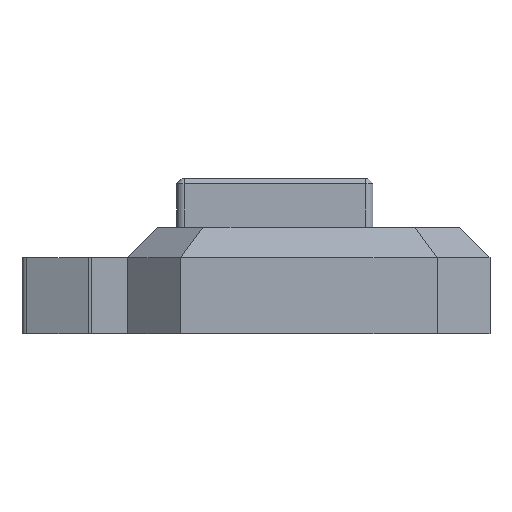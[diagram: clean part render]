
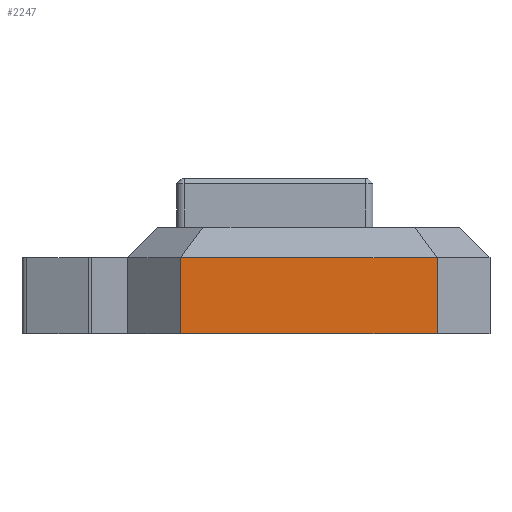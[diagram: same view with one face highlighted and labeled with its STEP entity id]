
A CAD part, left-side view. The second image highlights one B-rep face of the part: STEP entity #2247.
In plain terms, the highlighted planar face has unit normal (-1, 0, 0).
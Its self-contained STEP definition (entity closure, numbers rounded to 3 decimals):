
#44 = PLANE('',#45);
#45 = AXIS2_PLACEMENT_3D('',#46,#47,#48);
#46 = CARTESIAN_POINT('',(0.,0.,2.4));
#47 = DIRECTION('',(0.,0.,1.));
#48 = DIRECTION('',(1.,0.,-0.));
#72 = PLANE('',#73);
#73 = AXIS2_PLACEMENT_3D('',#74,#75,#76);
#74 = CARTESIAN_POINT('',(-27.,-17.,2.4));
#75 = DIRECTION('',(0.707,0.707,-0.));
#76 = DIRECTION('',(0.707,-0.707,0.));
#419 = EDGE_CURVE('',#420,#422,#424,.T.);
#420 = VERTEX_POINT('',#421);
#421 = CARTESIAN_POINT('',(-27.,17.,2.4));
#422 = VERTEX_POINT('',#423);
#423 = CARTESIAN_POINT('',(-27.,-17.,2.4));
#424 = SURFACE_CURVE('',#425,(#429,#436),.PCURVE_S1.);
#425 = LINE('',#426,#427);
#426 = CARTESIAN_POINT('',(-27.,17.,2.4));
#427 = VECTOR('',#428,1.);
#428 = DIRECTION('',(0.,-1.,0.));
#429 = PCURVE('',#44,#430);
#430 = DEFINITIONAL_REPRESENTATION('',(#431),#435);
#431 = LINE('',#432,#433);
#432 = CARTESIAN_POINT('',(-27.,17.));
#433 = VECTOR('',#434,1.);
#434 = DIRECTION('',(0.,-1.));
#435 = ( GEOMETRIC_REPRESENTATION_CONTEXT(2) 
PARAMETRIC_REPRESENTATION_CONTEXT() REPRESENTATION_CONTEXT('2D SPACE',''
  ) );
#436 = PCURVE('',#437,#442);
#437 = PLANE('',#438);
#438 = AXIS2_PLACEMENT_3D('',#439,#440,#441);
#439 = CARTESIAN_POINT('',(-27.,17.,2.4));
#440 = DIRECTION('',(1.,0.,-0.));
#441 = DIRECTION('',(0.,-1.,0.));
#442 = DEFINITIONAL_REPRESENTATION('',(#443),#447);
#443 = LINE('',#444,#445);
#444 = CARTESIAN_POINT('',(0.,0.));
#445 = VECTOR('',#446,1.);
#446 = DIRECTION('',(1.,0.));
#447 = ( GEOMETRIC_REPRESENTATION_CONTEXT(2) 
PARAMETRIC_REPRESENTATION_CONTEXT() REPRESENTATION_CONTEXT('2D SPACE',''
  ) );
#954 = PLANE('',#955);
#955 = AXIS2_PLACEMENT_3D('',#956,#957,#958);
#956 = CARTESIAN_POINT('',(-20.,24.,2.4));
#957 = DIRECTION('',(0.707,-0.707,0.));
#958 = DIRECTION('',(-0.707,-0.707,0.));
#1639 = EDGE_CURVE('',#422,#1640,#1642,.T.);
#1640 = VERTEX_POINT('',#1641);
#1641 = CARTESIAN_POINT('',(-27.,-17.,12.5));
#1642 = SURFACE_CURVE('',#1643,(#1647,#1654),.PCURVE_S1.);
#1643 = LINE('',#1644,#1645);
#1644 = CARTESIAN_POINT('',(-27.,-17.,2.4));
#1645 = VECTOR('',#1646,1.);
#1646 = DIRECTION('',(0.,0.,1.));
#1647 = PCURVE('',#72,#1648);
#1648 = DEFINITIONAL_REPRESENTATION('',(#1649),#1653);
#1649 = LINE('',#1650,#1651);
#1650 = CARTESIAN_POINT('',(0.,0.));
#1651 = VECTOR('',#1652,1.);
#1652 = DIRECTION('',(0.,-1.));
#1653 = ( GEOMETRIC_REPRESENTATION_CONTEXT(2) 
PARAMETRIC_REPRESENTATION_CONTEXT() REPRESENTATION_CONTEXT('2D SPACE',''
  ) );
#1654 = PCURVE('',#437,#1655);
#1655 = DEFINITIONAL_REPRESENTATION('',(#1656),#1660);
#1656 = LINE('',#1657,#1658);
#1657 = CARTESIAN_POINT('',(34.,0.));
#1658 = VECTOR('',#1659,1.);
#1659 = DIRECTION('',(0.,-1.));
#1660 = ( GEOMETRIC_REPRESENTATION_CONTEXT(2) 
PARAMETRIC_REPRESENTATION_CONTEXT() REPRESENTATION_CONTEXT('2D SPACE',''
  ) );
#2247 = ADVANCED_FACE('',(#2248),#437,.F.);
#2248 = FACE_BOUND('',#2249,.F.);
#2249 = EDGE_LOOP('',(#2250,#2273,#2298,#2299));
#2250 = ORIENTED_EDGE('',*,*,#2251,.T.);
#2251 = EDGE_CURVE('',#420,#2252,#2254,.T.);
#2252 = VERTEX_POINT('',#2253);
#2253 = CARTESIAN_POINT('',(-27.,17.,12.5));
#2254 = SURFACE_CURVE('',#2255,(#2259,#2266),.PCURVE_S1.);
#2255 = LINE('',#2256,#2257);
#2256 = CARTESIAN_POINT('',(-27.,17.,2.4));
#2257 = VECTOR('',#2258,1.);
#2258 = DIRECTION('',(0.,0.,1.));
#2259 = PCURVE('',#437,#2260);
#2260 = DEFINITIONAL_REPRESENTATION('',(#2261),#2265);
#2261 = LINE('',#2262,#2263);
#2262 = CARTESIAN_POINT('',(0.,0.));
#2263 = VECTOR('',#2264,1.);
#2264 = DIRECTION('',(0.,-1.));
#2265 = ( GEOMETRIC_REPRESENTATION_CONTEXT(2) 
PARAMETRIC_REPRESENTATION_CONTEXT() REPRESENTATION_CONTEXT('2D SPACE',''
  ) );
#2266 = PCURVE('',#954,#2267);
#2267 = DEFINITIONAL_REPRESENTATION('',(#2268),#2272);
#2268 = LINE('',#2269,#2270);
#2269 = CARTESIAN_POINT('',(9.899,0.));
#2270 = VECTOR('',#2271,1.);
#2271 = DIRECTION('',(0.,-1.));
#2272 = ( GEOMETRIC_REPRESENTATION_CONTEXT(2) 
PARAMETRIC_REPRESENTATION_CONTEXT() REPRESENTATION_CONTEXT('2D SPACE',''
  ) );
#2273 = ORIENTED_EDGE('',*,*,#2274,.T.);
#2274 = EDGE_CURVE('',#2252,#1640,#2275,.T.);
#2275 = SURFACE_CURVE('',#2276,(#2280,#2287),.PCURVE_S1.);
#2276 = LINE('',#2277,#2278);
#2277 = CARTESIAN_POINT('',(-27.,17.,12.5));
#2278 = VECTOR('',#2279,1.);
#2279 = DIRECTION('',(0.,-1.,0.));
#2280 = PCURVE('',#437,#2281);
#2281 = DEFINITIONAL_REPRESENTATION('',(#2282),#2286);
#2282 = LINE('',#2283,#2284);
#2283 = CARTESIAN_POINT('',(0.,-10.1));
#2284 = VECTOR('',#2285,1.);
#2285 = DIRECTION('',(1.,0.));
#2286 = ( GEOMETRIC_REPRESENTATION_CONTEXT(2) 
PARAMETRIC_REPRESENTATION_CONTEXT() REPRESENTATION_CONTEXT('2D SPACE',''
  ) );
#2287 = PCURVE('',#2288,#2293);
#2288 = B_SPLINE_SURFACE_WITH_KNOTS('',1,1,(
    (#2289,#2290)
    ,(#2291,#2292
    )),.UNSPECIFIED.,.F.,.F.,.F.,(2,2),(2,2),(0.,34.),(0.,1.),
  .PIECEWISE_BEZIER_KNOTS.);
#2289 = CARTESIAN_POINT('',(-27.,17.,12.5));
#2290 = CARTESIAN_POINT('',(-23.,14.037,16.5));
#2291 = CARTESIAN_POINT('',(-27.,-17.,12.5));
#2292 = CARTESIAN_POINT('',(-23.,-14.037,16.5));
#2293 = DEFINITIONAL_REPRESENTATION('',(#2294),#2297);
#2294 = B_SPLINE_CURVE_WITH_KNOTS('',1,(#2295,#2296),.UNSPECIFIED.,.F.,
  .F.,(2,2),(0.,34.),.PIECEWISE_BEZIER_KNOTS.);
#2295 = CARTESIAN_POINT('',(0.,0.));
#2296 = CARTESIAN_POINT('',(34.,0.));
#2297 = ( GEOMETRIC_REPRESENTATION_CONTEXT(2) 
PARAMETRIC_REPRESENTATION_CONTEXT() REPRESENTATION_CONTEXT('2D SPACE',''
  ) );
#2298 = ORIENTED_EDGE('',*,*,#1639,.F.);
#2299 = ORIENTED_EDGE('',*,*,#419,.F.);
